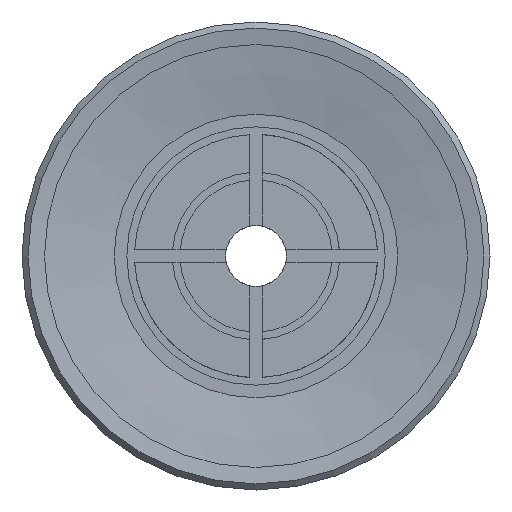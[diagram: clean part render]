
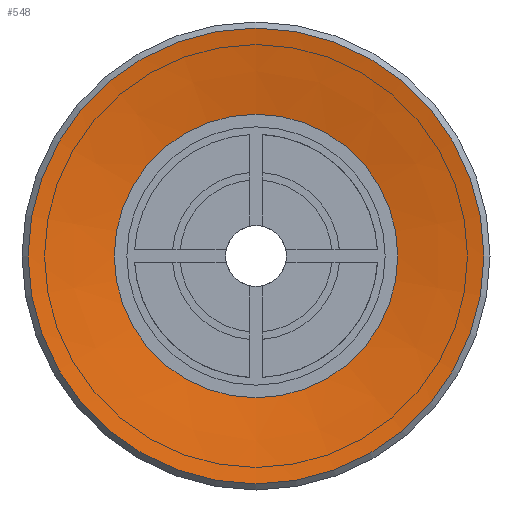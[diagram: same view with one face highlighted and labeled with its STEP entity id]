
A CAD part, front view. The second image highlights one B-rep face of the part: STEP entity #548.
In plain terms, the highlighted conical face has half-angle 80 degrees and reference radius 4.664 mm.
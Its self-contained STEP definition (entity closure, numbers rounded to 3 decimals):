
#548=ADVANCED_FACE('',(#837,#838),#839,.F.);
#837=FACE_BOUND('',#1220,.T.);
#838=FACE_OUTER_BOUND('',#1221,.T.);
#839=CONICAL_SURFACE('',#1222,4.664,1.396);
#1220=EDGE_LOOP('',(#2041));
#1221=EDGE_LOOP('',(#2042));
#1222=AXIS2_PLACEMENT_3D('',#2043,#2044,#2045);
#2041=ORIENTED_EDGE('',*,*,#2693,.F.);
#2042=ORIENTED_EDGE('',*,*,#2662,.T.);
#2043=CARTESIAN_POINT('',(0.0,0.5,0.0));
#2044=DIRECTION('',(-0.0,-1.0,0.));
#2045=DIRECTION('',(0.0,0.,-1.0));
#2662=EDGE_CURVE('',#3104,#3104,#3105,.T.);
#2693=EDGE_CURVE('',#3151,#3151,#3152,.T.);
#3104=VERTEX_POINT('',#3980);
#3105=CIRCLE('',#3981,7.5);
#3151=VERTEX_POINT('',#4078);
#3152=CIRCLE('',#4079,4.664);
#3980=CARTESIAN_POINT('',(0.0,0.,-7.5));
#3981=AXIS2_PLACEMENT_3D('',#4620,#4621,#4622);
#4078=CARTESIAN_POINT('',(0.0,0.5,-4.664));
#4079=AXIS2_PLACEMENT_3D('',#4657,#4658,#4659);
#4620=CARTESIAN_POINT('',(0.0,0.0,0.0));
#4621=DIRECTION('',(0.0,-1.0,0.));
#4622=DIRECTION('',(0.0,0.,-1.0));
#4657=CARTESIAN_POINT('',(0.0,0.5,0.0));
#4658=DIRECTION('',(0.0,-1.0,0.));
#4659=DIRECTION('',(0.0,0.,-1.0));
